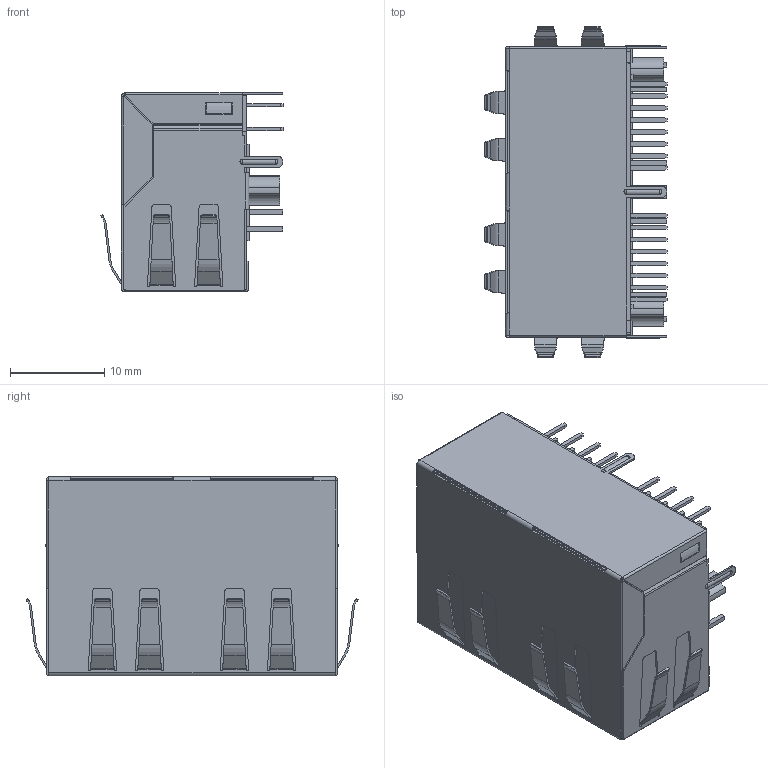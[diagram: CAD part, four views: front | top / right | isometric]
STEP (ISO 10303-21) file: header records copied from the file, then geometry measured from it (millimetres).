
FILE_DESCRIPTION((''),'2;1');
FILE_NAME('DGKYD112B002DB2A1D3','2022-02-23T',('Administrator'),(''),'PRO/ENGINEER BY PARAMETRIC TECHNOLOGY CORPORATION, 2008380','PRO/ENGINEER BY PARAMETRIC TECHNOLOGY CORPORATION, 2008380','');
FILE_SCHEMA(('CONFIG_CONTROL_DESIGN'));
Products named in the file (1): DGKYD112B002DB2A1D3
Bounding box: 19.34 x 35.2 x 21.2 mm (x, y, z)
Volume: 3533.1 mm3; surface area: 12652.4 mm2
Topology: 1 solids, 2 shells, 2500 faces, 7332 edges, 4691 vertices
Faces by surface type: plane 1902, cylinder 524, bspline 62, sphere 12
Entity records: 84084 total; most frequent: CARTESIAN_POINT 17122, ORIENTED_EDGE 14589, DIRECTION 13186, EDGE_CURVE 7332, VECTOR 5990, LINE 5990, VERTEX_POINT 4691, AXIS2_PLACEMENT_3D 3598
